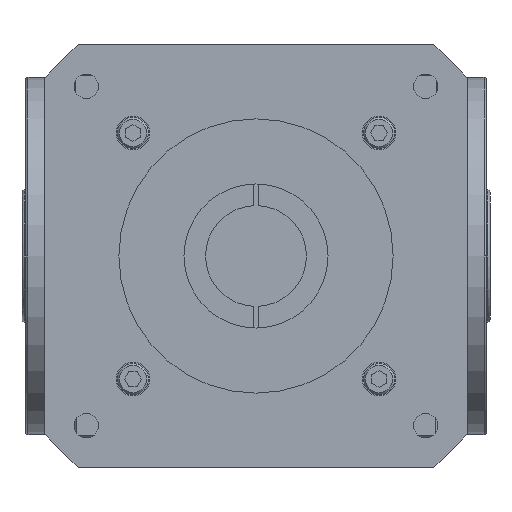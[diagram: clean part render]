
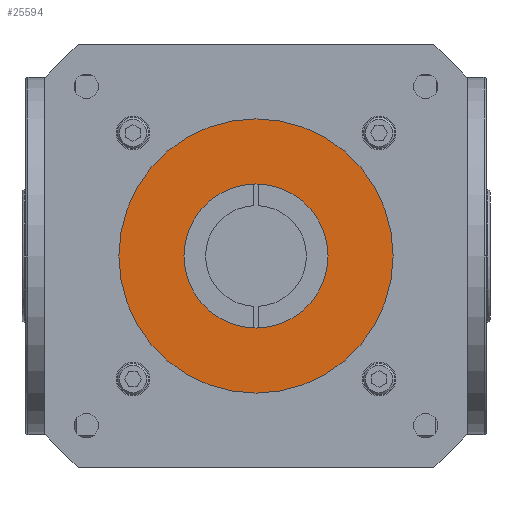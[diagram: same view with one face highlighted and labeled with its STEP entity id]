
A CAD part, front view. The second image highlights one B-rep face of the part: STEP entity #25594.
In plain terms, the highlighted planar face has unit normal (0, -1, 0).
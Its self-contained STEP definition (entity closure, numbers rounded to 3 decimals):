
#202 = EDGE_CURVE ( 'NONE', #28347, #29721, #29890, .T. ) ;
#298 = DIRECTION ( 'NONE',  ( 1., 0., 0. ) ) ;
#318 = EDGE_CURVE ( 'NONE', #13873, #10956, #28075, .T. ) ;
#550 = EDGE_CURVE ( 'NONE', #29721, #28347, #26547, .T. ) ;
#637 = EDGE_CURVE ( 'NONE', #10956, #13873, #25769, .T. ) ;
#674 = AXIS2_PLACEMENT_3D ( 'NONE', #10256, #10214, #10178 ) ;
#1724 = ORIENTED_EDGE ( 'NONE', *, *, #318, .F. ) ;
#3240 = DIRECTION ( 'NONE',  ( 1., 0., 0. ) ) ;
#3247 = DIRECTION ( 'NONE',  ( 0., 1., 0. ) ) ;
#3305 = CARTESIAN_POINT ( 'NONE',  ( 0., -13., 0. ) ) ;
#3353 = CARTESIAN_POINT ( 'NONE',  ( 57.15, -13., 0. ) ) ;
#5038 = DIRECTION ( 'NONE',  ( 1., 0., 0. ) ) ;
#5074 = DIRECTION ( 'NONE',  ( 0., 1., 0. ) ) ;
#5099 = CARTESIAN_POINT ( 'NONE',  ( 0., -13., 0. ) ) ;
#8781 = CARTESIAN_POINT ( 'NONE',  ( -57.15, -13., 0. ) ) ;
#9320 = CARTESIAN_POINT ( 'NONE',  ( 30., -13., 0. ) ) ;
#10178 = DIRECTION ( 'NONE',  ( 1., 0., 0. ) ) ;
#10214 = DIRECTION ( 'NONE',  ( 0., 1., 0. ) ) ;
#10256 = CARTESIAN_POINT ( 'NONE',  ( 0., -13., 0. ) ) ;
#10262 = ORIENTED_EDGE ( 'NONE', *, *, #637, .F. ) ;
#10760 = AXIS2_PLACEMENT_3D ( 'NONE', #3305, #3247, #3240 ) ;
#10956 = VERTEX_POINT ( 'NONE', #8781 ) ;
#10959 = FACE_BOUND ( 'NONE', #27629, .T. ) ;
#11021 = FACE_OUTER_BOUND ( 'NONE', #27277, .T. ) ;
#12439 = DIRECTION ( 'NONE',  ( 1., 0., 0. ) ) ;
#12537 = DIRECTION ( 'NONE',  ( 0., 1., 0. ) ) ;
#12557 = AXIS2_PLACEMENT_3D ( 'NONE', #12578, #12537, #12439 ) ;
#12578 = CARTESIAN_POINT ( 'NONE',  ( 0., -13., 0. ) ) ;
#12740 = AXIS2_PLACEMENT_3D ( 'NONE', #28213, #14684, #298 ) ;
#13873 = VERTEX_POINT ( 'NONE', #3353 ) ;
#14684 = DIRECTION ( 'NONE',  ( 0., 1., 0. ) ) ;
#15428 = ORIENTED_EDGE ( 'NONE', *, *, #202, .T. ) ;
#16494 = ORIENTED_EDGE ( 'NONE', *, *, #550, .T. ) ;
#19258 = PLANE ( 'NONE',  #12740 ) ;
#20803 = CARTESIAN_POINT ( 'NONE',  ( -30., -13., 0. ) ) ;
#23762 = AXIS2_PLACEMENT_3D ( 'NONE', #5099, #5074, #5038 ) ;
#25594 = ADVANCED_FACE ( 'NONE', ( #11021, #10959 ), #19258, .F. ) ;
#25769 = CIRCLE ( 'NONE', #10760, 57.15 ) ;
#26547 = CIRCLE ( 'NONE', #23762, 30. ) ;
#27277 = EDGE_LOOP ( 'NONE', ( #1724, #10262 ) ) ;
#27629 = EDGE_LOOP ( 'NONE', ( #16494, #15428 ) ) ;
#28075 = CIRCLE ( 'NONE', #674, 57.15 ) ;
#28213 = CARTESIAN_POINT ( 'NONE',  ( 0., -13., -57.15 ) ) ;
#28347 = VERTEX_POINT ( 'NONE', #20803 ) ;
#29721 = VERTEX_POINT ( 'NONE', #9320 ) ;
#29890 = CIRCLE ( 'NONE', #12557, 30. ) ;
